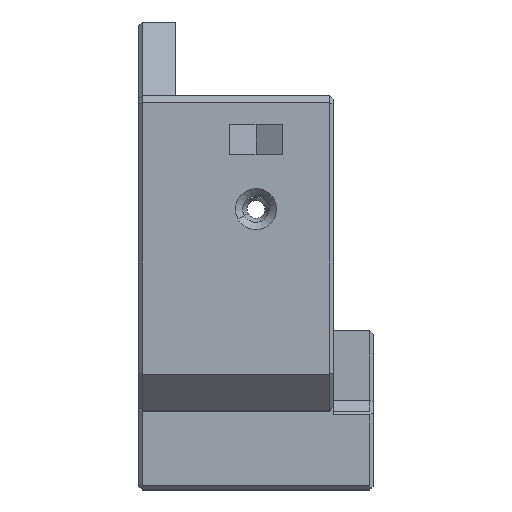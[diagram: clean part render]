
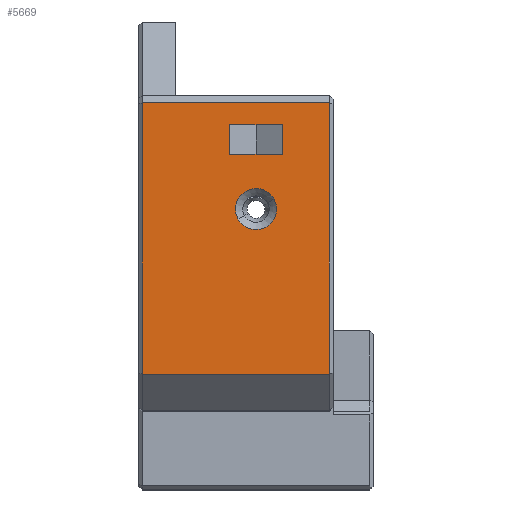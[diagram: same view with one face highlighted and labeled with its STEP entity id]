
A CAD part, top view. The second image highlights one B-rep face of the part: STEP entity #5669.
In plain terms, the highlighted planar face has unit normal (0, 0, 1).
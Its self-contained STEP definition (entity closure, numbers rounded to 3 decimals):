
#1248=CARTESIAN_POINT('Vertex',(3.65,49.,48.5)) ;
#1251=CARTESIAN_POINT('Line Origine',(1.825,49.,48.5)) ;
#1255=CARTESIAN_POINT('Vertex',(0.,49.,48.5)) ;
#1258=CARTESIAN_POINT('Line Origine',(-1.825,49.,48.5)) ;
#1262=CARTESIAN_POINT('Vertex',(-3.65,49.,48.5)) ;
#1311=CARTESIAN_POINT('Line Origine',(3.65,47.,48.5)) ;
#1315=CARTESIAN_POINT('Vertex',(3.65,45.,48.5)) ;
#2272=CARTESIAN_POINT('Line Origine',(-3.65,47.,48.5)) ;
#2276=CARTESIAN_POINT('Vertex',(-3.65,45.,48.5)) ;
#2296=CARTESIAN_POINT('Line Origine',(-1.825,45.,48.5)) ;
#2300=CARTESIAN_POINT('Vertex',(0.,45.,48.5)) ;
#2303=CARTESIAN_POINT('Line Origine',(1.825,45.,48.5)) ;
#3592=CARTESIAN_POINT('Vertex',(10.,15.,48.5)) ;
#3618=CARTESIAN_POINT('Line Origine',(10.,31.25,48.5)) ;
#3622=CARTESIAN_POINT('Vertex',(10.,52.,48.5)) ;
#5032=CARTESIAN_POINT('Vertex',(-2.457,36.158,48.5)) ;
#5035=CARTESIAN_POINT('Axis2P3D Location',(0.,37.5,48.5)) ;
#5039=CARTESIAN_POINT('Vertex',(2.457,38.842,48.5)) ;
#5059=CARTESIAN_POINT('Axis2P3D Location',(0.,37.5,48.5)) ;
#5557=CARTESIAN_POINT('Vertex',(-15.5,52.,48.5)) ;
#5562=CARTESIAN_POINT('Line Origine',(0.,52.,48.5)) ;
#5591=CARTESIAN_POINT('Line Origine',(0.,15.,48.5)) ;
#5595=CARTESIAN_POINT('Vertex',(-15.5,15.,48.5)) ;
#5641=CARTESIAN_POINT('Axis2P3D Location',(-16.,53.,48.5)) ;
#5646=CARTESIAN_POINT('Line Origine',(-15.5,33.5,48.5)) ;
#1252=DIRECTION('Vector Direction',(-1.,0.,0.)) ;
#1259=DIRECTION('Vector Direction',(1.,0.,0.)) ;
#1312=DIRECTION('Vector Direction',(0.,-1.,0.)) ;
#2273=DIRECTION('Vector Direction',(0.,-1.,0.)) ;
#2297=DIRECTION('Vector Direction',(1.,0.,0.)) ;
#2304=DIRECTION('Vector Direction',(-1.,0.,0.)) ;
#3619=DIRECTION('Vector Direction',(0.,-1.,0.)) ;
#5036=DIRECTION('Axis2P3D Direction',(0.,0.,1.)) ;
#5060=DIRECTION('Axis2P3D Direction',(0.,0.,1.)) ;
#5563=DIRECTION('Vector Direction',(-1.,0.,0.)) ;
#5592=DIRECTION('Vector Direction',(1.,0.,0.)) ;
#5642=DIRECTION('Axis2P3D Direction',(-0.,0.,1.)) ;
#5643=DIRECTION('Axis2P3D XDirection',(0.,-1.,0.)) ;
#5647=DIRECTION('Vector Direction',(0.,1.,0.)) ;
#5037=AXIS2_PLACEMENT_3D('Circle Axis2P3D',#5035,#5036,$) ;
#5061=AXIS2_PLACEMENT_3D('Circle Axis2P3D',#5059,#5060,$) ;
#5644=AXIS2_PLACEMENT_3D('Plane Axis2P3D',#5641,#5642,#5643) ;
#5652=ORIENTED_EDGE('',*,*,#5597,.T.) ;
#5653=ORIENTED_EDGE('',*,*,#3624,.T.) ;
#5654=ORIENTED_EDGE('',*,*,#5566,.F.) ;
#5655=ORIENTED_EDGE('',*,*,#5650,.F.) ;
#5658=ORIENTED_EDGE('',*,*,#5063,.F.) ;
#5659=ORIENTED_EDGE('',*,*,#5041,.F.) ;
#5662=ORIENTED_EDGE('',*,*,#2302,.F.) ;
#5663=ORIENTED_EDGE('',*,*,#2278,.F.) ;
#5664=ORIENTED_EDGE('',*,*,#1264,.T.) ;
#5665=ORIENTED_EDGE('',*,*,#1257,.T.) ;
#5666=ORIENTED_EDGE('',*,*,#1317,.T.) ;
#5667=ORIENTED_EDGE('',*,*,#2307,.F.) ;
#5660=FACE_BOUND('',#5657,.T.) ;
#5668=FACE_BOUND('',#5661,.T.) ;
#1253=VECTOR('Line Direction',#1252,1.) ;
#1260=VECTOR('Line Direction',#1259,1.) ;
#1313=VECTOR('Line Direction',#1312,1.) ;
#2274=VECTOR('Line Direction',#2273,1.) ;
#2298=VECTOR('Line Direction',#2297,1.) ;
#2305=VECTOR('Line Direction',#2304,1.) ;
#3620=VECTOR('Line Direction',#3619,1.) ;
#5564=VECTOR('Line Direction',#5563,1.) ;
#5593=VECTOR('Line Direction',#5592,1.) ;
#5648=VECTOR('Line Direction',#5647,1.) ;
#5669=ADVANCED_FACE('PartBody',(#5656,#5660,#5668),#5645,.T.) ;
#5038=CIRCLE('generated circle',#5037,2.8) ;
#5062=CIRCLE('generated circle',#5061,2.8) ;
#1257=EDGE_CURVE('',#1256,#1249,#1254,.F.) ;
#1264=EDGE_CURVE('',#1263,#1256,#1261,.T.) ;
#1317=EDGE_CURVE('',#1249,#1316,#1314,.T.) ;
#2278=EDGE_CURVE('',#1263,#2277,#2275,.T.) ;
#2302=EDGE_CURVE('',#2277,#2301,#2299,.T.) ;
#2307=EDGE_CURVE('',#2301,#1316,#2306,.F.) ;
#3624=EDGE_CURVE('',#3593,#3623,#3621,.F.) ;
#5041=EDGE_CURVE('',#5033,#5040,#5038,.T.) ;
#5063=EDGE_CURVE('',#5040,#5033,#5062,.T.) ;
#5566=EDGE_CURVE('',#5558,#3623,#5565,.F.) ;
#5597=EDGE_CURVE('',#5596,#3593,#5594,.T.) ;
#5650=EDGE_CURVE('',#5596,#5558,#5649,.T.) ;
#5651=EDGE_LOOP('',(#5652,#5653,#5654,#5655)) ;
#5657=EDGE_LOOP('',(#5658,#5659)) ;
#5661=EDGE_LOOP('',(#5662,#5663,#5664,#5665,#5666,#5667)) ;
#5656=FACE_OUTER_BOUND('',#5651,.T.) ;
#1254=LINE('Line',#1251,#1253) ;
#1261=LINE('Line',#1258,#1260) ;
#1314=LINE('Line',#1311,#1313) ;
#2275=LINE('Line',#2272,#2274) ;
#2299=LINE('Line',#2296,#2298) ;
#2306=LINE('Line',#2303,#2305) ;
#3621=LINE('Line',#3618,#3620) ;
#5565=LINE('Line',#5562,#5564) ;
#5594=LINE('Line',#5591,#5593) ;
#5649=LINE('Line',#5646,#5648) ;
#5645=PLANE('Plane',#5644) ;
#1249=VERTEX_POINT('',#1248) ;
#1256=VERTEX_POINT('',#1255) ;
#1263=VERTEX_POINT('',#1262) ;
#1316=VERTEX_POINT('',#1315) ;
#2277=VERTEX_POINT('',#2276) ;
#2301=VERTEX_POINT('',#2300) ;
#3593=VERTEX_POINT('',#3592) ;
#3623=VERTEX_POINT('',#3622) ;
#5033=VERTEX_POINT('',#5032) ;
#5040=VERTEX_POINT('',#5039) ;
#5558=VERTEX_POINT('',#5557) ;
#5596=VERTEX_POINT('',#5595) ;
